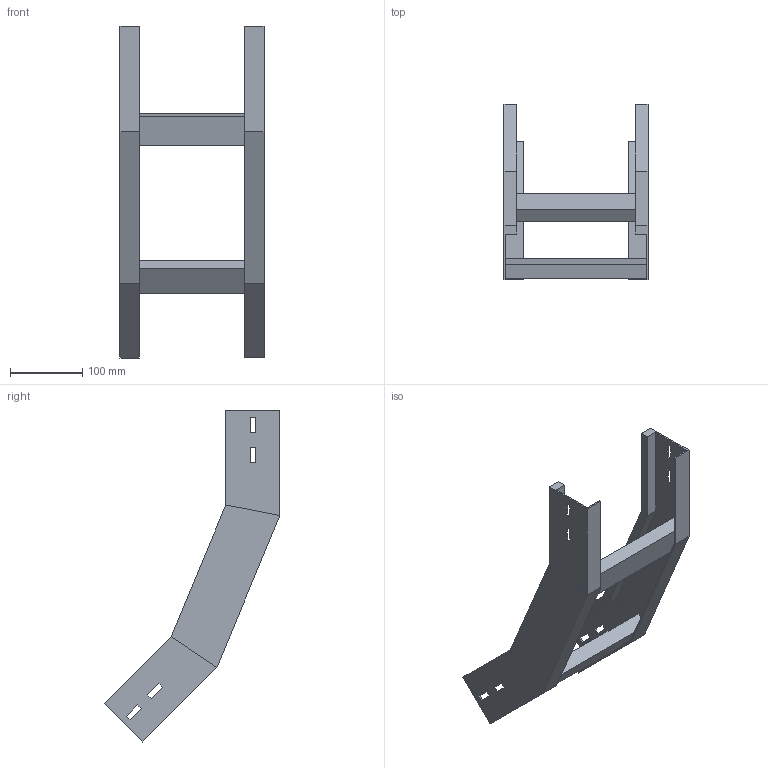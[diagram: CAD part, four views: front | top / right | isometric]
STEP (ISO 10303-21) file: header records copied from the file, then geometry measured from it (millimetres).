
FILE_DESCRIPTION (( 'STEP AP214' ), '1' );
FILE_NAME ('B2X31B5C200XX.step', '2025-03-20T10:10:49', ( '' ), ( '' ), 'SwSTEP 2.0', 'SolidWorks 2023', '' );
FILE_SCHEMA (( 'AUTOMOTIVE_DESIGN' ));
Length unit declared in the file: millimetre
Products named in the file (3): B2X31B5C200XX; LONGH.SALITA_45°_H75_R500; TRAVERSINO_200
Assembly tree (4 placements, depth 2):
  B2X31B5C200XX
    LONGH.SALITA_45°_H75_R500  x2
    TRAVERSINO_200  x2
Bounding box: 200 x 244.02 x 461.09 mm (x, y, z)
Volume: 693721.5 mm3; surface area: 284021.9 mm2
Topology: 4 solids, 4 shells, 96 faces, 232 edges, 144 vertices
Faces by surface type: plane 96
Entity records: 1472 total; most frequent: CARTESIAN_POINT 243, ORIENTED_EDGE 232, DIRECTION 226, EDGE_CURVE 116, VECTOR 116, LINE 116, VERTEX_POINT 72, EDGE_LOOP 56
